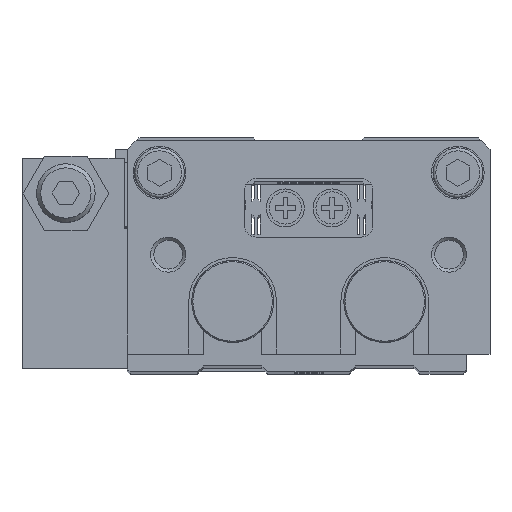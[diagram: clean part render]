
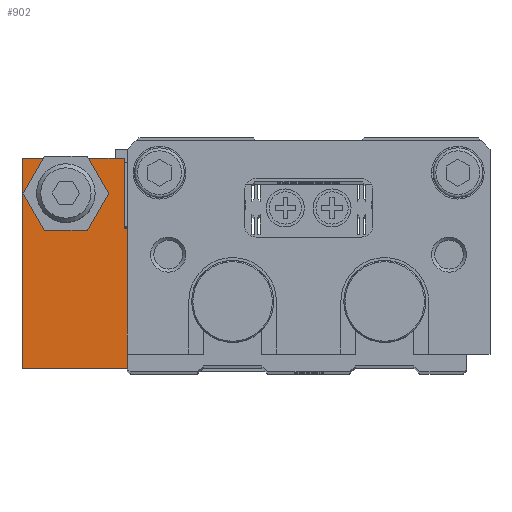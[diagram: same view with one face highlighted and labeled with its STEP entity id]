
A CAD part, top view. The second image highlights one B-rep face of the part: STEP entity #902.
In plain terms, the highlighted planar face has unit normal (0, 0, 1).
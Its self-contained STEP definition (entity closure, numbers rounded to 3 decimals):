
#902 = ADVANCED_FACE( '', ( #2302 ), #2303, .T. );
#2302 = FACE_OUTER_BOUND( '', #4414, .T. );
#2303 = PLANE( '', #4415 );
#4414 = EDGE_LOOP( '', ( #6972, #6973, #6974, #6975, #6976, #6977, #6978, #6979, #6980, #6981, #6982, #6983 ) );
#4415 = AXIS2_PLACEMENT_3D( '', #6984, #6985, #6986 );
#6972 = ORIENTED_EDGE( '', *, *, #11596, .T. );
#6973 = ORIENTED_EDGE( '', *, *, #11640, .F. );
#6974 = ORIENTED_EDGE( '', *, *, #11641, .F. );
#6975 = ORIENTED_EDGE( '', *, *, #11642, .F. );
#6976 = ORIENTED_EDGE( '', *, *, #11643, .F. );
#6977 = ORIENTED_EDGE( '', *, *, #11644, .F. );
#6978 = ORIENTED_EDGE( '', *, *, #11595, .T. );
#6979 = ORIENTED_EDGE( '', *, *, #11645, .T. );
#6980 = ORIENTED_EDGE( '', *, *, #11646, .T. );
#6981 = ORIENTED_EDGE( '', *, *, #11647, .T. );
#6982 = ORIENTED_EDGE( '', *, *, #11648, .T. );
#6983 = ORIENTED_EDGE( '', *, *, #11649, .T. );
#6984 = CARTESIAN_POINT( '', ( 0., 0., 5.5 ) );
#6985 = DIRECTION( '', ( 0., 0., 1. ) );
#6986 = DIRECTION( '', ( 1., 0., 0. ) );
#11595 = EDGE_CURVE( '', #13054, #13820, #13822, .T. );
#11596 = EDGE_CURVE( '', #13823, #13051, #13824, .T. );
#11640 = EDGE_CURVE( '', #13897, #13051, #13898, .T. );
#11641 = EDGE_CURVE( '', #13899, #13897, #13900, .T. );
#11642 = EDGE_CURVE( '', #13901, #13899, #13902, .T. );
#11643 = EDGE_CURVE( '', #13903, #13901, #13904, .T. );
#11644 = EDGE_CURVE( '', #13054, #13903, #13905, .T. );
#11645 = EDGE_CURVE( '', #13820, #13906, #13907, .T. );
#11646 = EDGE_CURVE( '', #13906, #13908, #13909, .T. );
#11647 = EDGE_CURVE( '', #13908, #13910, #13911, .T. );
#11648 = EDGE_CURVE( '', #13910, #13912, #13913, .T. );
#11649 = EDGE_CURVE( '', #13912, #13823, #13914, .T. );
#13051 = VERTEX_POINT( '', #15862 );
#13054 = VERTEX_POINT( '', #15866 );
#13820 = VERTEX_POINT( '', #16907 );
#13822 = LINE( '', #16910, #16911 );
#13823 = VERTEX_POINT( '', #16912 );
#13824 = LINE( '', #16913, #16914 );
#13897 = VERTEX_POINT( '', #17007 );
#13898 = LINE( '', #17008, #17009 );
#13899 = VERTEX_POINT( '', #17010 );
#13900 = LINE( '', #17011, #17012 );
#13901 = VERTEX_POINT( '', #17013 );
#13902 = LINE( '', #17014, #17015 );
#13903 = VERTEX_POINT( '', #17016 );
#13904 = LINE( '', #17017, #17018 );
#13905 = LINE( '', #17019, #17020 );
#13906 = VERTEX_POINT( '', #17021 );
#13907 = LINE( '', #17022, #17023 );
#13908 = VERTEX_POINT( '', #17024 );
#13909 = LINE( '', #17025, #17026 );
#13910 = VERTEX_POINT( '', #17027 );
#13911 = LINE( '', #17028, #17029 );
#13912 = VERTEX_POINT( '', #17030 );
#13913 = LINE( '', #17031, #17032 );
#13914 = LINE( '', #17033, #17034 );
#15862 = CARTESIAN_POINT( '', ( -11.368, 0., 5.5 ) );
#15866 = CARTESIAN_POINT( '', ( -3.632, 0., 5.5 ) );
#16907 = CARTESIAN_POINT( '', ( 0., 0., 5.5 ) );
#16910 = CARTESIAN_POINT( '', ( -17.5, 0., 5.5 ) );
#16911 = VECTOR( '', #20141, 1000. );
#16912 = CARTESIAN_POINT( '', ( -17.5, 0., 5.5 ) );
#16913 = CARTESIAN_POINT( '', ( -17.5, 0., 5.5 ) );
#16914 = VECTOR( '', #20142, 1000. );
#17007 = CARTESIAN_POINT( '', ( -14.832, 6., 5.5 ) );
#17008 = CARTESIAN_POINT( '', ( -14.832, 6., 5.5 ) );
#17009 = VECTOR( '', #20196, 1000. );
#17010 = CARTESIAN_POINT( '', ( -11.166, 12.35, 5.5 ) );
#17011 = CARTESIAN_POINT( '', ( -11.166, 12.35, 5.5 ) );
#17012 = VECTOR( '', #20197, 1000. );
#17013 = CARTESIAN_POINT( '', ( -3.834, 12.35, 5.5 ) );
#17014 = CARTESIAN_POINT( '', ( -3.834, 12.35, 5.5 ) );
#17015 = VECTOR( '', #20198, 1000. );
#17016 = CARTESIAN_POINT( '', ( -0.168, 6., 5.5 ) );
#17017 = CARTESIAN_POINT( '', ( -0.168, 6., 5.5 ) );
#17018 = VECTOR( '', #20199, 1000. );
#17019 = CARTESIAN_POINT( '', ( -3.834, -0.35, 5.5 ) );
#17020 = VECTOR( '', #20200, 1000. );
#17021 = CARTESIAN_POINT( '', ( 0., 36., 5.5 ) );
#17022 = CARTESIAN_POINT( '', ( 0., 0., 5.5 ) );
#17023 = VECTOR( '', #20201, 1000. );
#17024 = CARTESIAN_POINT( '', ( -19., 36., 5.5 ) );
#17025 = CARTESIAN_POINT( '', ( 0., 36., 5.5 ) );
#17026 = VECTOR( '', #20202, 1000. );
#17027 = CARTESIAN_POINT( '', ( -19., 12., 5.5 ) );
#17028 = CARTESIAN_POINT( '', ( -19., 36., 5.5 ) );
#17029 = VECTOR( '', #20203, 1000. );
#17030 = CARTESIAN_POINT( '', ( -17.5, 12., 5.5 ) );
#17031 = CARTESIAN_POINT( '', ( -19., 12., 5.5 ) );
#17032 = VECTOR( '', #20204, 1000. );
#17033 = CARTESIAN_POINT( '', ( -17.5, 12., 5.5 ) );
#17034 = VECTOR( '', #20205, 1000. );
#20141 = DIRECTION( '', ( 1., 0., 0. ) );
#20142 = DIRECTION( '', ( 1., 0., 0. ) );
#20196 = DIRECTION( '', ( 0.5, -0.866, 0. ) );
#20197 = DIRECTION( '', ( -0.5, -0.866, 0. ) );
#20198 = DIRECTION( '', ( -1., 0., 0. ) );
#20199 = DIRECTION( '', ( -0.5, 0.866, 0. ) );
#20200 = DIRECTION( '', ( 0.5, 0.866, 0. ) );
#20201 = DIRECTION( '', ( 0., 1., 0. ) );
#20202 = DIRECTION( '', ( -1., 0., 0. ) );
#20203 = DIRECTION( '', ( 0., -1., 0. ) );
#20204 = DIRECTION( '', ( 1., 0., 0. ) );
#20205 = DIRECTION( '', ( 0., -1., 0. ) );
